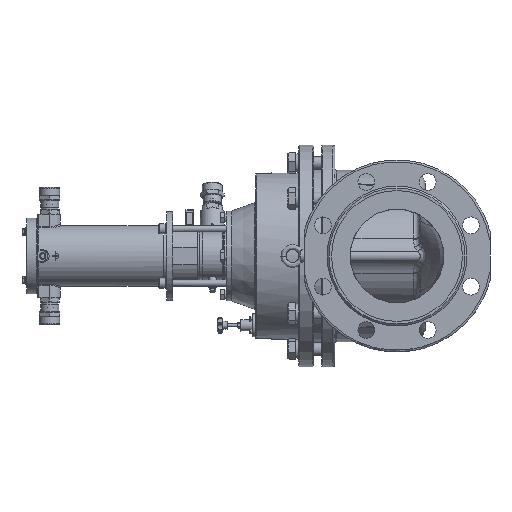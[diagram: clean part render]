
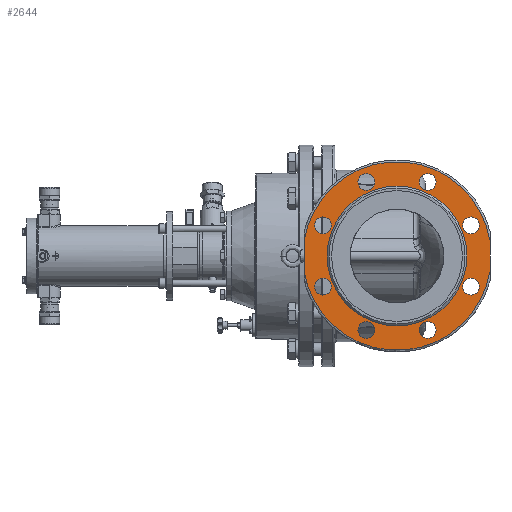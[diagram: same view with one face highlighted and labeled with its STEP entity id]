
A CAD part, left-side view. The second image highlights one B-rep face of the part: STEP entity #2644.
In plain terms, the highlighted planar face has unit normal (-1, 0, 0).
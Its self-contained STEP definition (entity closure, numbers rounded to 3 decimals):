
#2644=ADVANCED_FACE('',(#41576,#41578,#41580,#41582,#41584,#41586,#41588,#41590,
#41592,#41594),#41596,.T.);
#41576=FACE_BOUND('',#41577,.T.);
#41577=EDGE_LOOP('',(#71155));
#41578=FACE_BOUND('',#41579,.T.);
#41579=EDGE_LOOP('',(#71156));
#41580=FACE_BOUND('',#41581,.T.);
#41581=EDGE_LOOP('',(#71157));
#41582=FACE_BOUND('',#41583,.T.);
#41583=EDGE_LOOP('',(#71158));
#41584=FACE_BOUND('',#41585,.T.);
#41585=EDGE_LOOP('',(#71159));
#41586=FACE_BOUND('',#41587,.T.);
#41587=EDGE_LOOP('',(#71160));
#41588=FACE_BOUND('',#41589,.T.);
#41589=EDGE_LOOP('',(#71161));
#41590=FACE_BOUND('',#41591,.T.);
#41591=EDGE_LOOP('',(#71162));
#41592=FACE_BOUND('',#41593,.T.);
#41593=EDGE_LOOP('',(#71163));
#41594=FACE_OUTER_BOUND('',#41595,.T.);
#41595=EDGE_LOOP('',(#71164,#71165,#71166,#71167));
#41596=PLANE('',#41597);
#41597=AXIS2_PLACEMENT_3D('',#41598,#41599,#41600);
#41598=CARTESIAN_POINT('',(-237.,0.,0.));
#41599=DIRECTION('',(-1.,0.,0.));
#41600=DIRECTION('',(0.,-1.,0.));
#71155=ORIENTED_EDGE('',*,*,#83051,.T.);
#71156=ORIENTED_EDGE('',*,*,#83049,.T.);
#71157=ORIENTED_EDGE('',*,*,#83047,.T.);
#71158=ORIENTED_EDGE('',*,*,#83045,.T.);
#71159=ORIENTED_EDGE('',*,*,#83043,.T.);
#71160=ORIENTED_EDGE('',*,*,#83041,.T.);
#71161=ORIENTED_EDGE('',*,*,#83039,.T.);
#71162=ORIENTED_EDGE('',*,*,#83037,.T.);
#71163=ORIENTED_EDGE('',*,*,#83077,.F.);
#71164=ORIENTED_EDGE('',*,*,#83020,.T.);
#71165=ORIENTED_EDGE('',*,*,#83078,.T.);
#71166=ORIENTED_EDGE('',*,*,#83030,.T.);
#71167=ORIENTED_EDGE('',*,*,#83079,.T.);
#83020=EDGE_CURVE('',#94818,#94819,#94820,.F.);
#83030=EDGE_CURVE('',#94836,#94837,#94838,.F.);
#83037=EDGE_CURVE('',#94848,#94848,#94849,.F.);
#83039=EDGE_CURVE('',#94851,#94851,#94852,.F.);
#83041=EDGE_CURVE('',#94854,#94854,#94855,.F.);
#83043=EDGE_CURVE('',#94857,#94857,#94858,.F.);
#83045=EDGE_CURVE('',#94860,#94860,#94861,.F.);
#83047=EDGE_CURVE('',#94863,#94863,#94864,.F.);
#83049=EDGE_CURVE('',#94866,#94866,#94867,.F.);
#83051=EDGE_CURVE('',#94869,#94869,#94870,.F.);
#83077=EDGE_CURVE('',#94908,#94908,#94909,.T.);
#83078=EDGE_CURVE('',#94819,#94836,#94910,.T.);
#83079=EDGE_CURVE('',#94837,#94818,#94911,.T.);
#94818=VERTEX_POINT('',#139901);
#94819=VERTEX_POINT('',#139902);
#94820=LINE('',#139903,#139904);
#94836=VERTEX_POINT('',#140260);
#94837=VERTEX_POINT('',#140261);
#94838=LINE('',#140262,#140263);
#94848=VERTEX_POINT('',#140460);
#94849=CIRCLE('',#140461,13.);
#94851=VERTEX_POINT('',#140468);
#94852=CIRCLE('',#140469,13.);
#94854=VERTEX_POINT('',#140476);
#94855=CIRCLE('',#140477,13.);
#94857=VERTEX_POINT('',#140484);
#94858=CIRCLE('',#140485,13.);
#94860=VERTEX_POINT('',#140492);
#94861=CIRCLE('',#140493,13.);
#94863=VERTEX_POINT('',#140500);
#94864=CIRCLE('',#140501,13.);
#94866=VERTEX_POINT('',#140508);
#94867=CIRCLE('',#140509,13.);
#94869=VERTEX_POINT('',#140516);
#94870=CIRCLE('',#140517,13.);
#94908=VERTEX_POINT('',#140874);
#94909=CIRCLE('',#140875,109.);
#94910=CIRCLE('',#140879,147.);
#94911=CIRCLE('',#140883,147.);
#139901=CARTESIAN_POINT('',(-237.,-145.,-24.166));
#139902=CARTESIAN_POINT('',(-237.,-145.,24.166));
#139903=CARTESIAN_POINT('',(-237.,-145.,24.166));
#139904=VECTOR('',#139905,1.);
#139905=DIRECTION('',(0.,0.,-1.));
#140260=CARTESIAN_POINT('',(-237.,145.,24.166));
#140261=CARTESIAN_POINT('',(-237.,145.,-24.166));
#140262=CARTESIAN_POINT('',(-237.,145.,-24.166));
#140263=VECTOR('',#140264,1.);
#140264=DIRECTION('',(0.,0.,1.));
#140460=CARTESIAN_POINT('',(-237.,47.835,128.485));
#140461=AXIS2_PLACEMENT_3D('',#140462,#140463,#140464);
#140462=CARTESIAN_POINT('',(-237.,47.835,115.485));
#140463=DIRECTION('',(-1.,0.,0.));
#140464=DIRECTION('',(0.,0.,1.));
#140468=CARTESIAN_POINT('',(-237.,115.485,60.835));
#140469=AXIS2_PLACEMENT_3D('',#140470,#140471,#140472);
#140470=CARTESIAN_POINT('',(-237.,115.485,47.835));
#140471=DIRECTION('',(-1.,0.,0.));
#140472=DIRECTION('',(0.,0.,1.));
#140476=CARTESIAN_POINT('',(-237.,115.485,-60.835));
#140477=AXIS2_PLACEMENT_3D('',#140478,#140479,#140480);
#140478=CARTESIAN_POINT('',(-237.,115.485,-47.835));
#140479=DIRECTION('',(-1.,0.,0.));
#140480=DIRECTION('',(0.,-0.,-1.));
#140484=CARTESIAN_POINT('',(-237.,47.835,-128.485));
#140485=AXIS2_PLACEMENT_3D('',#140486,#140487,#140488);
#140486=CARTESIAN_POINT('',(-237.,47.835,-115.485));
#140487=DIRECTION('',(-1.,0.,0.));
#140488=DIRECTION('',(0.,-0.,-1.));
#140492=CARTESIAN_POINT('',(-237.,-47.835,-128.485));
#140493=AXIS2_PLACEMENT_3D('',#140494,#140495,#140496);
#140494=CARTESIAN_POINT('',(-237.,-47.835,-115.485));
#140495=DIRECTION('',(-1.,0.,0.));
#140496=DIRECTION('',(0.,-0.,-1.));
#140500=CARTESIAN_POINT('',(-237.,-115.485,-60.835));
#140501=AXIS2_PLACEMENT_3D('',#140502,#140503,#140504);
#140502=CARTESIAN_POINT('',(-237.,-115.485,-47.835));
#140503=DIRECTION('',(-1.,0.,0.));
#140504=DIRECTION('',(0.,-0.,-1.));
#140508=CARTESIAN_POINT('',(-237.,-47.835,128.485));
#140509=AXIS2_PLACEMENT_3D('',#140510,#140511,#140512);
#140510=CARTESIAN_POINT('',(-237.,-47.835,115.485));
#140511=DIRECTION('',(-1.,0.,0.));
#140512=DIRECTION('',(0.,0.,1.));
#140516=CARTESIAN_POINT('',(-237.,-115.485,60.835));
#140517=AXIS2_PLACEMENT_3D('',#140518,#140519,#140520);
#140518=CARTESIAN_POINT('',(-237.,-115.485,47.835));
#140519=DIRECTION('',(-1.,0.,0.));
#140520=DIRECTION('',(0.,0.,1.));
#140874=CARTESIAN_POINT('',(-237.,-109.,0.));
#140875=AXIS2_PLACEMENT_3D('',#140876,#140877,#140878);
#140876=CARTESIAN_POINT('',(-237.,0.,0.));
#140877=DIRECTION('',(-1.,0.,0.));
#140878=DIRECTION('',(0.,-1.,0.));
#140879=AXIS2_PLACEMENT_3D('',#140880,#140881,#140882);
#140880=CARTESIAN_POINT('',(-237.,0.,0.));
#140881=DIRECTION('',(-1.,0.,0.));
#140882=DIRECTION('',(0.,-0.986,0.164));
#140883=AXIS2_PLACEMENT_3D('',#140884,#140885,#140886);
#140884=CARTESIAN_POINT('',(-237.,0.,0.));
#140885=DIRECTION('',(-1.,0.,0.));
#140886=DIRECTION('',(0.,0.986,-0.164));
